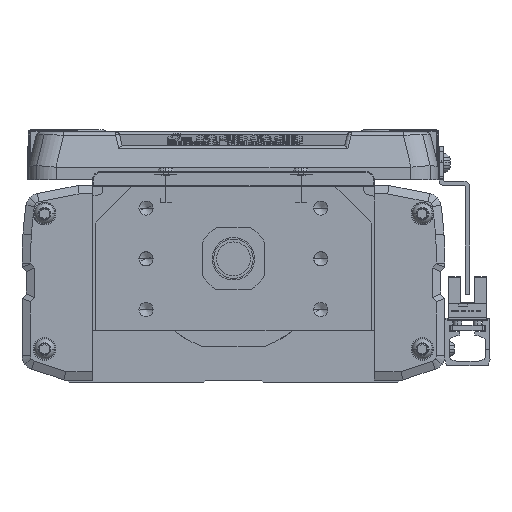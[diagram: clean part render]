
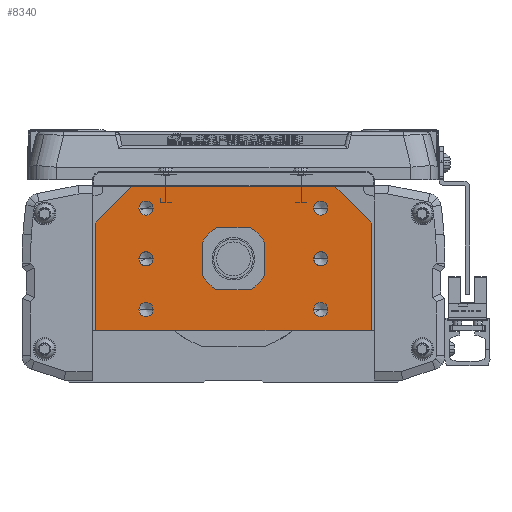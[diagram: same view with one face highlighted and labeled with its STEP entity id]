
A CAD part, left-side view. The second image highlights one B-rep face of the part: STEP entity #8340.
In plain terms, the highlighted planar face has unit normal (-1, 0, 0).
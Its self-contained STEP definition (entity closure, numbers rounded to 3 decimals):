
#8340=ADVANCED_FACE('',(#16806,#16807,#16808,#16809,#16810,#16811,#16812,#16813),#16814,.F.);
#16806=FACE_OUTER_BOUND('',#26762,.T.);
#16807=FACE_BOUND('',#26763,.T.);
#16808=FACE_BOUND('',#26764,.T.);
#16809=FACE_BOUND('',#26765,.T.);
#16810=FACE_BOUND('',#26766,.T.);
#16811=FACE_BOUND('',#26767,.T.);
#16812=FACE_BOUND('',#26768,.T.);
#16813=FACE_BOUND('',#26769,.T.);
#16814=PLANE('',#26770);
#26762=EDGE_LOOP('',(#50397,#50398,#50399,#50400,#50401,#50402,#50403,#50404));
#26763=EDGE_LOOP('',(#50405,#50406));
#26764=EDGE_LOOP('',(#50407,#50408));
#26765=EDGE_LOOP('',(#50409,#50410));
#26766=EDGE_LOOP('',(#50411,#50412));
#26767=EDGE_LOOP('',(#50413,#50414));
#26768=EDGE_LOOP('',(#50415,#50416));
#26769=EDGE_LOOP('',(#50417,#50418));
#26770=AXIS2_PLACEMENT_3D('',#50419,#50420,#50421);
#50397=ORIENTED_EDGE('',*,*,#52350,.F.);
#50398=ORIENTED_EDGE('',*,*,#53580,.F.);
#50399=ORIENTED_EDGE('',*,*,#55659,.F.);
#50400=ORIENTED_EDGE('',*,*,#57474,.F.);
#50401=ORIENTED_EDGE('',*,*,#58185,.F.);
#50402=ORIENTED_EDGE('',*,*,#58706,.F.);
#50403=ORIENTED_EDGE('',*,*,#53582,.F.);
#50404=ORIENTED_EDGE('',*,*,#55985,.F.);
#50405=ORIENTED_EDGE('',*,*,#59522,.T.);
#50406=ORIENTED_EDGE('',*,*,#55968,.T.);
#50407=ORIENTED_EDGE('',*,*,#58921,.T.);
#50408=ORIENTED_EDGE('',*,*,#55946,.T.);
#50409=ORIENTED_EDGE('',*,*,#53747,.T.);
#50410=ORIENTED_EDGE('',*,*,#55185,.T.);
#50411=ORIENTED_EDGE('',*,*,#57253,.T.);
#50412=ORIENTED_EDGE('',*,*,#55566,.T.);
#50413=ORIENTED_EDGE('',*,*,#57760,.T.);
#50414=ORIENTED_EDGE('',*,*,#57508,.T.);
#50415=ORIENTED_EDGE('',*,*,#53479,.T.);
#50416=ORIENTED_EDGE('',*,*,#58221,.T.);
#50417=ORIENTED_EDGE('',*,*,#60198,.F.);
#50418=ORIENTED_EDGE('',*,*,#53238,.F.);
#50419=CARTESIAN_POINT('',(0.,0.275,-2.548));
#50420=DIRECTION('',(1.0,0.,0.));
#50421=DIRECTION('',(0.,1.0,0.));
#52350=EDGE_CURVE('',#62846,#62847,#62848,.T.);
#53238=EDGE_CURVE('',#64339,#64342,#64343,.F.);
#53479=EDGE_CURVE('',#64749,#64752,#64754,.T.);
#53580=EDGE_CURVE('',#64919,#62846,#64921,.T.);
#53582=EDGE_CURVE('',#64923,#64924,#64925,.T.);
#53747=EDGE_CURVE('',#65182,#65185,#65187,.T.);
#55185=EDGE_CURVE('',#65185,#65182,#67459,.T.);
#55566=EDGE_CURVE('',#68029,#68027,#68030,.T.);
#55659=EDGE_CURVE('',#68166,#64919,#68168,.T.);
#55946=EDGE_CURVE('',#68588,#68586,#68589,.T.);
#55968=EDGE_CURVE('',#68621,#68619,#68622,.T.);
#55985=EDGE_CURVE('',#62847,#64923,#68644,.T.);
#57253=EDGE_CURVE('',#68027,#68029,#70428,.T.);
#57474=EDGE_CURVE('',#70714,#68166,#70716,.T.);
#57508=EDGE_CURVE('',#70760,#70758,#70761,.T.);
#57760=EDGE_CURVE('',#70758,#70760,#71083,.T.);
#58185=EDGE_CURVE('',#71629,#70714,#71631,.T.);
#58221=EDGE_CURVE('',#64752,#64749,#71678,.T.);
#58706=EDGE_CURVE('',#64924,#71629,#72292,.T.);
#58921=EDGE_CURVE('',#68586,#68588,#72541,.T.);
#59522=EDGE_CURVE('',#68619,#68621,#73236,.T.);
#60198=EDGE_CURVE('',#64342,#64339,#73945,.F.);
#62846=VERTEX_POINT('',#77587);
#62847=VERTEX_POINT('',#77588);
#62848=LINE('',#77589,#77590);
#64339=VERTEX_POINT('',#79704);
#64342=VERTEX_POINT('',#79708);
#64343=CIRCLE('',#79709,7.5);
#64749=VERTEX_POINT('',#80246);
#64752=VERTEX_POINT('',#80250);
#64754=CIRCLE('',#80253,2.5);
#64919=VERTEX_POINT('',#80469);
#64921=LINE('',#80472,#80473);
#64923=VERTEX_POINT('',#80475);
#64924=VERTEX_POINT('',#80476);
#64925=LINE('',#80477,#80478);
#65182=VERTEX_POINT('',#80848);
#65185=VERTEX_POINT('',#80852);
#65187=CIRCLE('',#80855,2.5);
#67459=CIRCLE('',#84063,2.5);
#68027=VERTEX_POINT('',#84897);
#68029=VERTEX_POINT('',#84900);
#68030=CIRCLE('',#84901,2.5);
#68166=VERTEX_POINT('',#85134);
#68168=LINE('',#85137,#85138);
#68586=VERTEX_POINT('',#85791);
#68588=VERTEX_POINT('',#85794);
#68589=CIRCLE('',#85795,2.5);
#68619=VERTEX_POINT('',#85859);
#68621=VERTEX_POINT('',#85862);
#68622=CIRCLE('',#85863,2.5);
#68644=LINE('',#85891,#85892);
#70428=CIRCLE('',#88430,2.5);
#70714=VERTEX_POINT('',#88828);
#70716=LINE('',#88831,#88832);
#70758=VERTEX_POINT('',#88886);
#70760=VERTEX_POINT('',#88889);
#70761=CIRCLE('',#88890,2.5);
#71083=CIRCLE('',#89365,2.5);
#71629=VERTEX_POINT('',#90152);
#71631=LINE('',#90155,#90156);
#71678=CIRCLE('',#90249,2.5);
#72292=LINE('',#91471,#91472);
#72541=CIRCLE('',#91873,2.5);
#73236=CIRCLE('',#92839,2.5);
#73945=CIRCLE('',#93802,7.5);
#77587=CARTESIAN_POINT('',(0.,49.,12.7));
#77588=CARTESIAN_POINT('',(0.,36.,25.7));
#77589=CARTESIAN_POINT('',(0.,37.381,24.319));
#77590=VECTOR('',#95963,10.);
#79704=CARTESIAN_POINT('',(0.,-7.5,0.));
#79708=CARTESIAN_POINT('',(0.,7.5,0.));
#79709=AXIS2_PLACEMENT_3D('',#97182,#97183,#97184);
#80246=CARTESIAN_POINT('',(0.,-33.5,0.));
#80250=CARTESIAN_POINT('',(0.,-28.5,0.));
#80253=AXIS2_PLACEMENT_3D('',#97555,#97556,#97557);
#80469=CARTESIAN_POINT('',(0.,49.,-25.));
#80472=CARTESIAN_POINT('',(0.,49.,-25.));
#80473=VECTOR('',#97697,10.0);
#80475=CARTESIAN_POINT('',(0.,-36.,25.7));
#80476=CARTESIAN_POINT('',(0.,-49.,12.7));
#80477=CARTESIAN_POINT('',(0.,-37.243,24.457));
#80478=VECTOR('',#97698,10.0);
#80848=CARTESIAN_POINT('',(0.,33.5,18.));
#80852=CARTESIAN_POINT('',(0.,28.5,18.));
#80855=AXIS2_PLACEMENT_3D('',#97938,#97939,#97940);
#84063=AXIS2_PLACEMENT_3D('',#99872,#99873,#99874);
#84897=CARTESIAN_POINT('',(0.,-33.5,18.));
#84900=CARTESIAN_POINT('',(0.,-28.5,18.));
#84901=AXIS2_PLACEMENT_3D('',#100349,#100350,#100351);
#85134=CARTESIAN_POINT('',(0.,48.5,-25.5));
#85137=CARTESIAN_POINT('',(0.,48.5,-25.5));
#85138=VECTOR('',#100459,10.0);
#85791=CARTESIAN_POINT('',(0.,-33.5,-18.));
#85794=CARTESIAN_POINT('',(0.,-28.5,-18.));
#85795=AXIS2_PLACEMENT_3D('',#100808,#100809,#100810);
#85859=CARTESIAN_POINT('',(0.,33.5,-18.));
#85862=CARTESIAN_POINT('',(0.,28.5,-18.));
#85863=AXIS2_PLACEMENT_3D('',#100840,#100841,#100842);
#85891=CARTESIAN_POINT('',(0.,34.5,25.7));
#85892=VECTOR('',#100864,10.0);
#88430=AXIS2_PLACEMENT_3D('',#102539,#102540,#102541);
#88828=CARTESIAN_POINT('',(0.,-48.5,-25.5));
#88831=CARTESIAN_POINT('',(0.,0.,-25.5));
#88832=VECTOR('',#102811,10.0);
#88886=CARTESIAN_POINT('',(0.,33.5,0.));
#88889=CARTESIAN_POINT('',(0.,28.5,0.));
#88890=AXIS2_PLACEMENT_3D('',#102858,#102859,#102860);
#89365=AXIS2_PLACEMENT_3D('',#103122,#103123,#103124);
#90152=CARTESIAN_POINT('',(0.,-49.,-25.));
#90155=CARTESIAN_POINT('',(0.,-49.,-25.));
#90156=VECTOR('',#103602,10.0);
#90249=AXIS2_PLACEMENT_3D('',#103637,#103638,#103639);
#91471=CARTESIAN_POINT('',(0.,-49.,-14.));
#91472=VECTOR('',#104182,10.0);
#91873=AXIS2_PLACEMENT_3D('',#104370,#104371,#104372);
#92839=AXIS2_PLACEMENT_3D('',#104915,#104916,#104917);
#93802=AXIS2_PLACEMENT_3D('',#105335,#105336,#105337);
#95963=DIRECTION('',(0.,-0.707,0.707));
#97182=CARTESIAN_POINT('',(0.,0.,0.));
#97183=DIRECTION('',(1.0,0.,0.));
#97184=DIRECTION('',(0.,-1.0,0.));
#97555=CARTESIAN_POINT('',(0.,-31.,0.));
#97556=DIRECTION('',(1.0,0.,0.));
#97557=DIRECTION('',(0.,-1.0,0.));
#97697=DIRECTION('',(0.,0.,1.0));
#97698=DIRECTION('',(0.,-0.707,-0.707));
#97938=CARTESIAN_POINT('',(0.,31.,18.));
#97939=DIRECTION('',(1.0,0.,0.));
#97940=DIRECTION('',(0.,1.0,0.));
#99872=CARTESIAN_POINT('',(0.,31.,18.));
#99873=DIRECTION('',(1.0,0.,0.));
#99874=DIRECTION('',(0.,1.0,0.));
#100349=CARTESIAN_POINT('',(0.,-31.,18.));
#100350=DIRECTION('',(1.0,0.,0.));
#100351=DIRECTION('',(0.,-1.0,0.));
#100459=DIRECTION('',(0.,0.707,0.707));
#100808=CARTESIAN_POINT('',(0.,-31.,-18.));
#100809=DIRECTION('',(1.0,0.,0.));
#100810=DIRECTION('',(0.,-1.0,0.));
#100840=CARTESIAN_POINT('',(0.,31.,-18.));
#100841=DIRECTION('',(1.0,0.,0.));
#100842=DIRECTION('',(0.,1.0,0.));
#100864=DIRECTION('',(0.,-1.0,0.));
#102539=CARTESIAN_POINT('',(0.,-31.,18.));
#102540=DIRECTION('',(1.0,0.,0.));
#102541=DIRECTION('',(0.,-1.0,0.));
#102811=DIRECTION('',(0.,1.0,0.));
#102858=CARTESIAN_POINT('',(0.,31.,0.));
#102859=DIRECTION('',(1.0,0.,0.));
#102860=DIRECTION('',(0.,1.0,0.));
#103122=CARTESIAN_POINT('',(0.,31.,0.));
#103123=DIRECTION('',(1.0,0.,0.));
#103124=DIRECTION('',(0.,1.0,0.));
#103602=DIRECTION('',(0.,0.707,-0.707));
#103637=CARTESIAN_POINT('',(0.,-31.,0.));
#103638=DIRECTION('',(1.0,0.,0.));
#103639=DIRECTION('',(0.,-1.0,0.));
#104182=DIRECTION('',(0.,0.,-1.0));
#104370=CARTESIAN_POINT('',(0.,-31.,-18.));
#104371=DIRECTION('',(1.0,0.,0.));
#104372=DIRECTION('',(0.,-1.0,0.));
#104915=CARTESIAN_POINT('',(0.,31.,-18.));
#104916=DIRECTION('',(1.0,0.,0.));
#104917=DIRECTION('',(0.,1.0,0.));
#105335=CARTESIAN_POINT('',(0.,0.,0.));
#105336=DIRECTION('',(1.0,0.,0.));
#105337=DIRECTION('',(0.,-1.0,0.));
